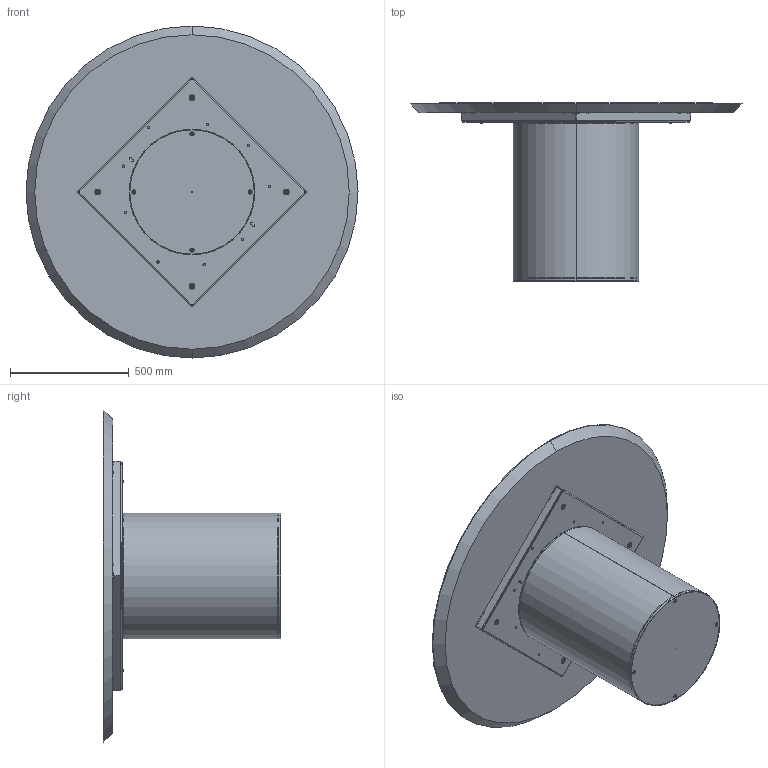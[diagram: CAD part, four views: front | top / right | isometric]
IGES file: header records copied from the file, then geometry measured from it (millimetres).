
Start section: SolidWorks IGES file using analytic representation for surfaces
Global section: file name: Y:\eforma\TECNICO\SOLIDWORKS\E-FORMA\1-TAVOLI\CILINDRO\02 parts\CI06W.IGS; native system: SolidWorks 2022; preprocessor: SolidWorks 2022; author: eforma.tech; date: 240808.090137; units: millimetre
Bounding box: 1400 x 750 x 1400 mm (x, y, z)
Volume: 65918469.4 mm3; surface area: 7303288.4 mm2
Topology: 23 solids, 23 shells, 862 faces, 2146 edges, 1304 vertices
Faces by surface type: revolution 482, plane 380
